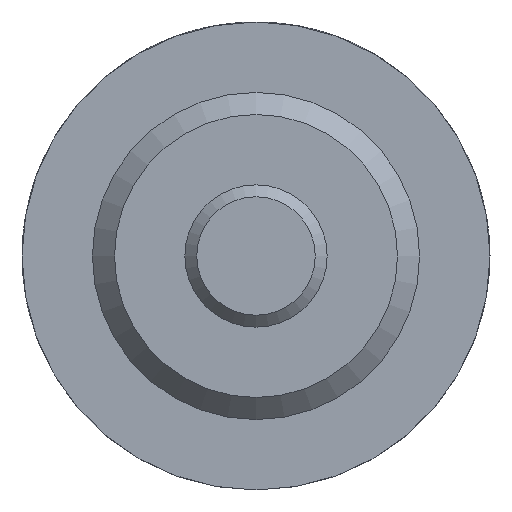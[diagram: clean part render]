
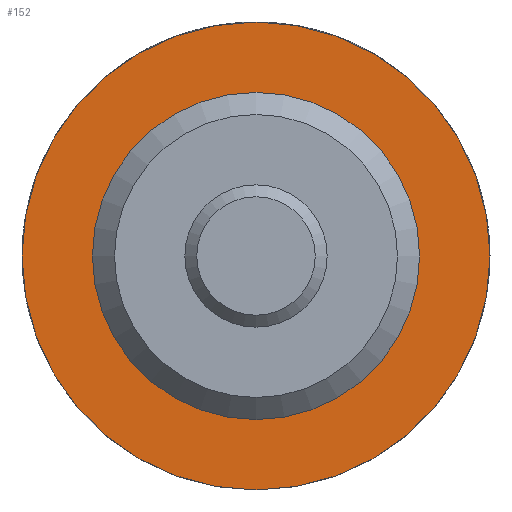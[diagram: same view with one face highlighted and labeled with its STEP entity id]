
A CAD part, left-side view. The second image highlights one B-rep face of the part: STEP entity #152.
In plain terms, the highlighted planar face has unit normal (-1, 0, 0).
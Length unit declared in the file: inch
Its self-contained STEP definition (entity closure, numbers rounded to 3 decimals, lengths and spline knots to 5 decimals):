
#152 = ADVANCED_FACE( '', ( #329, #330 ), #331, .F. );
#329 = FACE_OUTER_BOUND( '', #556, .T. );
#330 = FACE_BOUND( '', #557, .T. );
#331 = PLANE( '', #558 );
#556 = EDGE_LOOP( '', ( #808 ) );
#557 = EDGE_LOOP( '', ( #809 ) );
#558 = AXIS2_PLACEMENT_3D( '', #810, #811, #812 );
#808 = ORIENTED_EDGE( '', *, *, #1179, .F. );
#809 = ORIENTED_EDGE( '', *, *, #1180, .T. );
#810 = CARTESIAN_POINT( '', ( 0.375, 0.2185, 0. ) );
#811 = DIRECTION( '', ( 1., 0., 0. ) );
#812 = DIRECTION( '', ( 0., 0., -1. ) );
#1179 = EDGE_CURVE( '', #1357, #1357, #1358, .T. );
#1180 = EDGE_CURVE( '', #1359, #1359, #1360, .T. );
#1357 = VERTEX_POINT( '', #1592 );
#1358 = CIRCLE( '', #1593, 0.3125 );
#1359 = VERTEX_POINT( '', #1594 );
#1360 = CIRCLE( '', #1595, 0.2185 );
#1592 = CARTESIAN_POINT( '', ( 0.375, 0., -0.3125 ) );
#1593 = AXIS2_PLACEMENT_3D( '', #2024, #2025, #2026 );
#1594 = CARTESIAN_POINT( '', ( 0.375, 0., -0.2185 ) );
#1595 = AXIS2_PLACEMENT_3D( '', #2027, #2028, #2029 );
#2024 = CARTESIAN_POINT( '', ( 0.375, 0., 0. ) );
#2025 = DIRECTION( '', ( 1., 0., 0. ) );
#2026 = DIRECTION( '', ( 0., 0., -1. ) );
#2027 = CARTESIAN_POINT( '', ( 0.375, 0., 0. ) );
#2028 = DIRECTION( '', ( 1., 0., 0. ) );
#2029 = DIRECTION( '', ( 0., 0., -1. ) );
